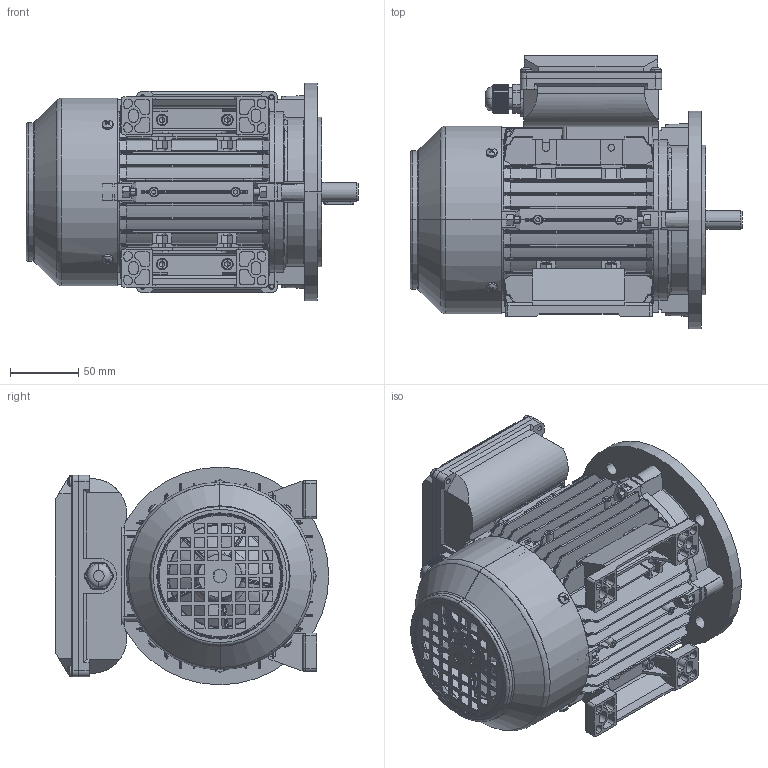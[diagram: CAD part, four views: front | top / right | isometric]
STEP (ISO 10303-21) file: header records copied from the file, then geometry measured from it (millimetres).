
FILE_DESCRIPTION (( 'STEP AP203' ), '1' );
FILE_NAME ('ML2 71 B35.STEP', '2024-01-20T03:07:59', ( '' ), ( '' ), 'SwSTEP 2.0', 'SolidWorks 2016', '' );
FILE_SCHEMA (( 'CONFIG_CONTROL_DESIGN' ));
Length unit declared in the file: millimetre
Products named in the file (17): MS71 瑞珔; hexagon socket head cap screws gb_GB_FASTENER_SCREWS_HSHCS M5X25-N; 堤盄蹟杶M16; TA71瑞欶; cross recessed thread forming screws gb_GB_CROSS_SCREWS_TYPE138 M4X10-N; ML2 71 B35; TAN71 儂褲; hexagon socket head cap screws gb_GB_FASTENER_SCREWS_HSHCS M5X16-N; TAN71 綴裔; ML63-71臏諉盄碟軞傖.SLDPRT; TAN71 菁褐; plain parallel keys_GB_CONNECTING_PIECE_KEYS_CSK 5X22; T71蛌粣; ML63-71諉盄碟釱(臏); ML63-71諉盄碟裔(臏); hexagon nuts grade c gb_GB_FASTENER_NUT_SNC1 M5-N; TAN71 B5裔
Assembly tree (45 placements, depth 3):
  ML2 71 B35
    TAN71 儂褲
    TAN71 綴裔
    TAN71 菁褐  x2
    T71蛌粣
    TA71瑞欶
    MS71 瑞珔
    hexagon nuts grade c gb_GB_FASTENER_NUT_SNC1 M5-N  x12
    hexagon socket head cap screws gb_GB_FASTENER_SCREWS_HSHCS M5X25-N  x8
    cross recessed thread forming screws gb_GB_CROSS_SCREWS_TYPE138 M4X10-N  x4
    hexagon socket head cap screws gb_GB_FASTENER_SCREWS_HSHCS M5X16-N  x4
    plain parallel keys_GB_CONNECTING_PIECE_KEYS_CSK 5X22
    TAN71 B5裔
    ML63-71臏諉盄碟軞傖.SLDPRT
      cross recessed thread forming screws gb_GB_CROSS_SCREWS_TYPE138 M4X10-N  x4
      堤盄蹟杶M16
      ML63-71諉盄碟裔(臏)
      ML63-71諉盄碟釱(臏)
Bounding box: 244 x 201 x 160 mm (x, y, z)
Volume: 851647.1 mm3; surface area: 572574.9 mm2
Topology: 44 solids, 44 shells, 4483 faces, 11711 edges, 7366 vertices
Faces by surface type: plane 2170, cylinder 1149, bspline 554, cone 394, torus 180, sphere 36
Entity records: 135439 total; most frequent: CARTESIAN_POINT 45306, ORIENTED_EDGE 19760, DIRECTION 16476, EDGE_CURVE 9880, VERTEX_POINT 6252, AXIS2_PLACEMENT_3D 5740, VECTOR 4996, LINE 4996
